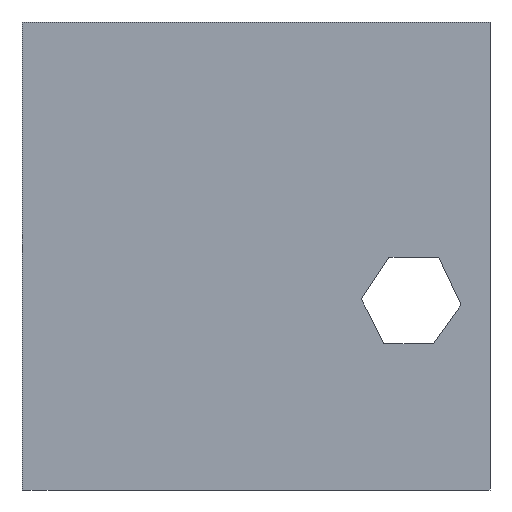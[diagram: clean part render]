
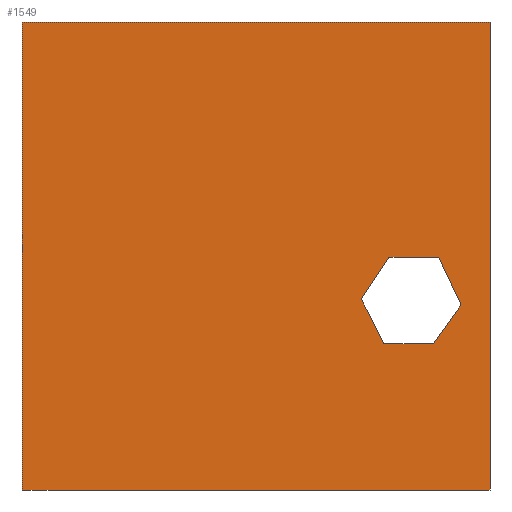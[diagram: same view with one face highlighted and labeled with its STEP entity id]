
A CAD part, left-side view. The second image highlights one B-rep face of the part: STEP entity #1549.
In plain terms, the highlighted planar face has unit normal (-1, 0, 0).
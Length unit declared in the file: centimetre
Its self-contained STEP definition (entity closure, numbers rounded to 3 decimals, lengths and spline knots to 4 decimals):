
#9 = ORIENTED_EDGE ( 'NONE', *, *, #993, .T. ) ;
#13 = EDGE_CURVE ( 'NONE', #808, #454, #466, .T. ) ;
#21 = LINE ( 'NONE', #678, #1250 ) ;
#25 = ORIENTED_EDGE ( 'NONE', *, *, #1547, .T. ) ;
#34 = CARTESIAN_POINT ( 'NONE',  ( 0., 1000., 1000. ) ) ;
#57 = FACE_BOUND ( 'NONE', #1408, .T. ) ;
#60 = VERTEX_POINT ( 'NONE', #377 ) ;
#71 = VECTOR ( 'NONE', #1491, 100. ) ;
#72 = CARTESIAN_POINT ( 'NONE',  ( 0., 1000., 1000. ) ) ;
#87 = ORIENTED_EDGE ( 'NONE', *, *, #806, .T. ) ;
#110 = AXIS2_PLACEMENT_3D ( 'NONE', #72, #1650, #611 ) ;
#142 = DIRECTION ( 'NONE',  ( 0., -1., 0. ) ) ;
#194 = DIRECTION ( 'NONE',  ( 0., -0.424, -0.906 ) ) ;
#231 = ORIENTED_EDGE ( 'NONE', *, *, #13, .T. ) ;
#240 = VECTOR ( 'NONE', #845, 100. ) ;
#243 = VECTOR ( 'NONE', #1291, 100. ) ;
#271 = CARTESIAN_POINT ( 'NONE',  ( 0., 120.8096, 312.9764 ) ) ;
#274 = EDGE_CURVE ( 'NONE', #853, #837, #1527, .T. ) ;
#292 = LINE ( 'NONE', #271, #1511 ) ;
#293 = CARTESIAN_POINT ( 'NONE',  ( 0., 274.7111, 408.2814 ) ) ;
#320 = CARTESIAN_POINT ( 'NONE',  ( 0., 0., 0. ) ) ;
#321 = EDGE_CURVE ( 'NONE', #1360, #60, #21, .T. ) ;
#334 = CARTESIAN_POINT ( 'NONE',  ( 0., 1000., 0. ) ) ;
#335 = CARTESIAN_POINT ( 'NONE',  ( 0., 1000., 1000. ) ) ;
#338 = CARTESIAN_POINT ( 'NONE',  ( 0., 109.6381, 497.1364 ) ) ;
#359 = CARTESIAN_POINT ( 'NONE',  ( 0., 215.9629, 497.1364 ) ) ;
#377 = CARTESIAN_POINT ( 'NONE',  ( 0., 0., 1000. ) ) ;
#382 = CARTESIAN_POINT ( 'NONE',  ( 0., 227.1344, 312.9764 ) ) ;
#384 = VECTOR ( 'NONE', #1317, 100. ) ;
#392 = ORIENTED_EDGE ( 'NONE', *, *, #549, .T. ) ;
#396 = EDGE_CURVE ( 'NONE', #60, #454, #1427, .T. ) ;
#401 = ORIENTED_EDGE ( 'NONE', *, *, #321, .F. ) ;
#454 = VERTEX_POINT ( 'NONE', #320 ) ;
#466 = LINE ( 'NONE', #334, #240 ) ;
#477 = VERTEX_POINT ( 'NONE', #338 ) ;
#485 = CARTESIAN_POINT ( 'NONE',  ( 0., 1000., 0. ) ) ;
#502 = DIRECTION ( 'NONE',  ( 0., 0.447, 0.895 ) ) ;
#533 = EDGE_LOOP ( 'NONE', ( #231, #964, #401, #1608 ) ) ;
#549 = EDGE_CURVE ( 'NONE', #1590, #1358, #1566, .T. ) ;
#568 = DIRECTION ( 'NONE',  ( 0., 1., 0. ) ) ;
#579 = DIRECTION ( 'NONE',  ( 0., 0., -1. ) ) ;
#611 = DIRECTION ( 'NONE',  ( 0., 0., -1. ) ) ;
#678 = CARTESIAN_POINT ( 'NONE',  ( 0., 1000., 1000. ) ) ;
#682 = EDGE_CURVE ( 'NONE', #1360, #808, #730, .T. ) ;
#730 = LINE ( 'NONE', #335, #71 ) ;
#801 = CARTESIAN_POINT ( 'NONE',  ( 0., 62.0614, 395.3816 ) ) ;
#806 = EDGE_CURVE ( 'NONE', #1333, #1590, #1027, .T. ) ;
#808 = VERTEX_POINT ( 'NONE', #485 ) ;
#837 = VERTEX_POINT ( 'NONE', #1390 ) ;
#845 = DIRECTION ( 'NONE',  ( 0., -1., 0. ) ) ;
#853 = VERTEX_POINT ( 'NONE', #1372 ) ;
#963 = CARTESIAN_POINT ( 'NONE',  ( 0., 109.6381, 497.1364 ) ) ;
#964 = ORIENTED_EDGE ( 'NONE', *, *, #396, .F. ) ;
#993 = EDGE_CURVE ( 'NONE', #837, #1333, #292, .T. ) ;
#1027 = LINE ( 'NONE', #1122, #1614 ) ;
#1090 = ORIENTED_EDGE ( 'NONE', *, *, #1191, .T. ) ;
#1110 = ORIENTED_EDGE ( 'NONE', *, *, #274, .T. ) ;
#1120 = LINE ( 'NONE', #359, #1297 ) ;
#1122 = CARTESIAN_POINT ( 'NONE',  ( 0., 227.1344, 312.9764 ) ) ;
#1191 = EDGE_CURVE ( 'NONE', #1358, #477, #1120, .T. ) ;
#1200 = PLANE ( 'NONE',  #110 ) ;
#1250 = VECTOR ( 'NONE', #142, 100. ) ;
#1252 = DIRECTION ( 'NONE',  ( 0., -1., 0. ) ) ;
#1291 = DIRECTION ( 'NONE',  ( 0., 0.581, -0.814 ) ) ;
#1297 = VECTOR ( 'NONE', #1252, 100. ) ;
#1317 = DIRECTION ( 'NONE',  ( 0., -0.552, 0.834 ) ) ;
#1333 = VERTEX_POINT ( 'NONE', #382 ) ;
#1337 = LINE ( 'NONE', #963, #1649 ) ;
#1358 = VERTEX_POINT ( 'NONE', #1410 ) ;
#1360 = VERTEX_POINT ( 'NONE', #34 ) ;
#1372 = CARTESIAN_POINT ( 'NONE',  ( 0., 62.0614, 395.3816 ) ) ;
#1390 = CARTESIAN_POINT ( 'NONE',  ( 0., 120.8096, 312.9764 ) ) ;
#1408 = EDGE_LOOP ( 'NONE', ( #1110, #9, #87, #392, #1090, #25 ) ) ;
#1410 = CARTESIAN_POINT ( 'NONE',  ( 0., 215.9629, 497.1364 ) ) ;
#1427 = LINE ( 'NONE', #1562, #1616 ) ;
#1491 = DIRECTION ( 'NONE',  ( 0., 0., -1. ) ) ;
#1511 = VECTOR ( 'NONE', #568, 100. ) ;
#1514 = CARTESIAN_POINT ( 'NONE',  ( 0., 274.7111, 408.2814 ) ) ;
#1527 = LINE ( 'NONE', #801, #243 ) ;
#1547 = EDGE_CURVE ( 'NONE', #477, #853, #1337, .T. ) ;
#1549 = ADVANCED_FACE ( 'NONE', ( #57, #1578 ), #1200, .F. ) ;
#1562 = CARTESIAN_POINT ( 'NONE',  ( 0., 0., 1000. ) ) ;
#1566 = LINE ( 'NONE', #293, #384 ) ;
#1578 = FACE_OUTER_BOUND ( 'NONE', #533, .T. ) ;
#1590 = VERTEX_POINT ( 'NONE', #1514 ) ;
#1608 = ORIENTED_EDGE ( 'NONE', *, *, #682, .T. ) ;
#1614 = VECTOR ( 'NONE', #502, 100. ) ;
#1616 = VECTOR ( 'NONE', #579, 100. ) ;
#1649 = VECTOR ( 'NONE', #194, 100. ) ;
#1650 = DIRECTION ( 'NONE',  ( 1., 0., 0. ) ) ;
